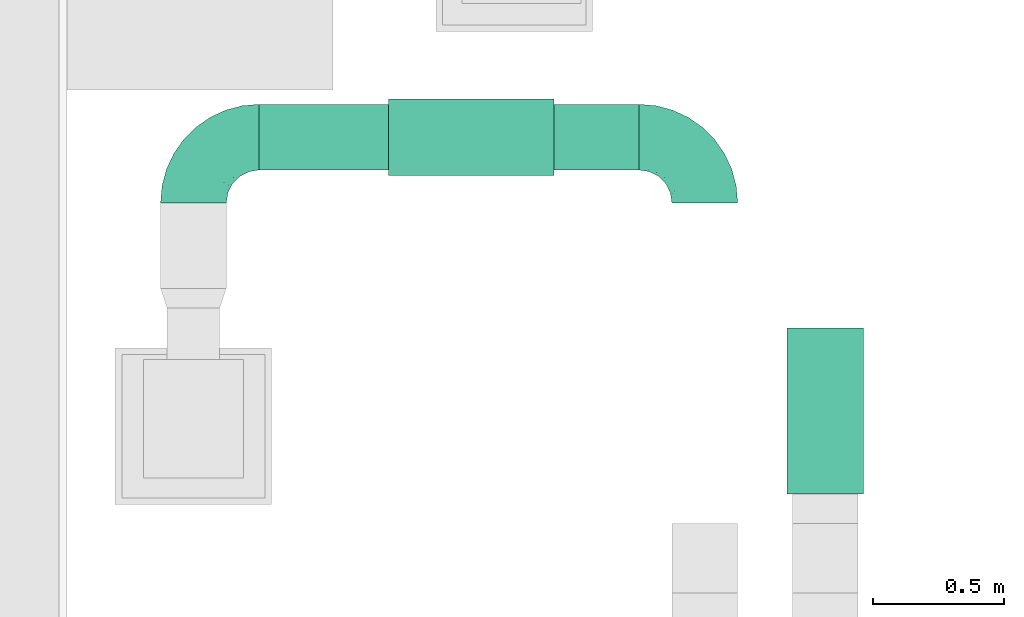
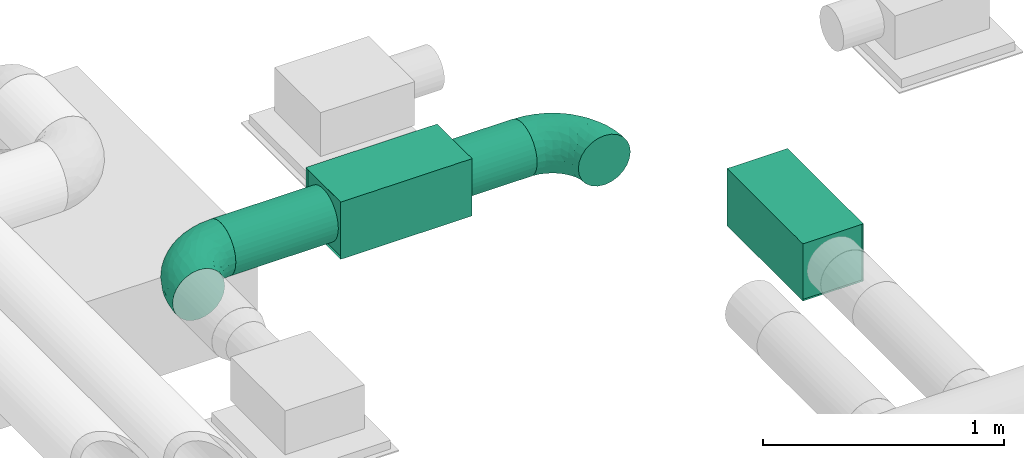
# One storey, part 20 of 36: 2 flow fittings, 2 flow segments, 2 flow treatment devices.
"""IFC2X3 building model written with IfcOpenShell, lengths in millimetres."""

from ifc_helpers import new_model, entity, si_unit, converted_unit, derived_unit, direction, frame, origin_with_axes, origin_2d_with_axis, place, context, subcontext, project, spatial, hollow_circle, extrude, open_shell, surface_model, source, transform, mapped, type_object, element, save


model = new_model("IFC2X3")

# Units and contexts
model_context = context("Model", 3, precision=0.01, world=frame((0.0, 4.29681676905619e-09, 0.0)), true_north=direction((4.01073788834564e-13, 1.0)))
plan_context = context("Plan", 3, precision=0.01, world=frame((0.0, 4.29681676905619e-09, 0.0)), true_north=direction((4.01073788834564e-13, 1.0)))
body_context = subcontext(model_context, "Body", "Model", "MODEL_VIEW")
ifc_project = project(units=[converted_unit("PLANEANGLEUNIT", "DEGREE", entity("IfcPositiveLengthMeasure", 0.0174532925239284), si_unit("PLANEANGLEUNIT", "RADIAN"), dimensions=[0, 0, 0, 0, 0, 0, 0]), si_unit("AREAUNIT", "SQUARE_METRE"), si_unit("LENGTHUNIT", "METRE", prefix="MILLI"), si_unit("MASSUNIT", "GRAM", prefix="KILO"), si_unit("POWERUNIT", "WATT"), si_unit("PRESSUREUNIT", "PASCAL"), si_unit("FORCEUNIT", "NEWTON", prefix="KILO"), si_unit("ELECTRICCURRENTUNIT", "AMPERE"), si_unit("THERMODYNAMICTEMPERATUREUNIT", "DEGREE_CELSIUS"), si_unit("TIMEUNIT", "SECOND"), si_unit("VOLUMEUNIT", "CUBIC_METRE"), derived_unit("LINEARVELOCITYUNIT", [(si_unit("LENGTHUNIT", "METRE"), 1), (si_unit("TIMEUNIT", "SECOND"), -1)]), derived_unit("VOLUMETRICFLOWRATEUNIT", [(si_unit("VOLUMEUNIT", "CUBIC_METRE"), 1), (si_unit("TIMEUNIT", "SECOND"), -1)]), derived_unit("THERMALTRANSMITTANCEUNIT", [(si_unit("POWERUNIT", "WATT"), 1), (si_unit("THERMODYNAMICTEMPERATUREUNIT", "KELVIN"), -1), (si_unit("AREAUNIT", "SQUARE_METRE"), -1)])], contexts=[model_context, plan_context])

# Site, building, storey
site_placement = place(None, frame((0.0, -4.29681676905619e-09, 0.0), z_axis=(0.0, 0.0, 1.0), x_axis=(1.0, 0.0, 0.0)))
site = spatial("IfcSite", under=ifc_project, at=site_placement, CompositionType="ELEMENT")
building_placement = place(site_placement, frame((0.0, 4.29681676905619e-09, 0.0), z_axis=(0.0, 0.0, 1.0), x_axis=(1.0, 0.0, 0.0)))
building = spatial("IfcBuilding", under=site, at=building_placement, Name="mc-building", CompositionType="ELEMENT")
storey_placement = place(building_placement, frame((0.0, 0.0, 204000.0), z_axis=(0.0, 0.0, 1.0), x_axis=(1.0, 0.0, 0.0)))
storey = spatial("IfcBuildingStorey", under=building, at=storey_placement, Name="Nivå D", CompositionType="ELEMENT", Elevation=204000.0)

# Flow fittings
duct_fitting_type = type_object("IfcDuctFittingType", Name="magicirc_elbow_full_radius_001", PredefinedType="BEND")
shared_shape_1 = source(origin_with_axes(), body_context, "Body", "SurfaceModel", [
    surface_model("IfcShellBasedSurfaceModel", [(-250.0, 0.0, -125.0), (-250.0, -88.38835, -88.38835), (-250.0, 32.35238, -120.74073), (-250.0, 62.5, -108.25318), (-250.0, 88.38835, -88.38835), (-250.0, 120.74073, -32.35238), (-250.0, 108.25318, -62.5), (-250.0, -62.5, -108.25318), (-250.0, -32.35238, -120.74073), (-250.0, -108.25318, -62.5), (-250.0, -120.74073, -32.35238), (-250.0, -125.0, 0.0), (-250.0, -88.38835, 88.38835), (-250.0, 120.74073, 32.35238), (-250.0, -62.5, 108.25318), (-250.0, 108.25318, 62.5), (-250.0, 62.5, 108.25318), (-250.0, 88.38835, 88.38835), (-250.0, 32.35238, 120.74073), (-250.0, -108.25318, 62.5), (-250.0, -120.74073, 32.35238), (-250.0, -32.35238, 120.74073), (-250.0, 0.0, 125.0), (-250.0, 125.0, 0.0), (-32.35238, 250.0, -120.74073), (88.38835, 250.0, -88.38835), (0.0, 250.0, -125.0), (-88.38835, 250.0, -88.38835), (-62.5, 250.0, -108.25318), (-108.25318, 250.0, -62.5), (-120.74073, 250.0, -32.35238), (32.35238, 250.0, -120.74073), (62.5, 250.0, -108.25318), (120.74073, 250.0, -32.35238), (108.25318, 250.0, -62.5), (125.0, 250.0, 0.0), (88.38835, 250.0, 88.38835), (62.5, 250.0, 108.25318), (-120.74073, 250.0, 32.35238), (-108.25318, 250.0, 62.5), (-62.5, 250.0, 108.25318), (-88.38835, 250.0, 88.38835), (-32.35238, 250.0, 120.74073), (120.74073, 250.0, 32.35238), (108.25318, 250.0, 62.5), (0.0, 250.0, 125.0), (32.35238, 250.0, 120.74073), (-125.0, 250.0, 0.0), (-210.86951, 73.07385, 104.36376), (-184.88194, -119.30291, 0.0), (-195.25827, -115.02308, 37.93413), (-218.90842, -122.27984, 0.0), (53.79635, 43.6295, 43.29829), (28.71982, 26.00799, 63.66662), (24.95926, 3.36677, 37.10772), (-143.32142, -83.48741, 74.82033), (-148.43956, -66.68827, 93.84246), (-193.81021, -79.4231, 92.40443), (-215.01547, -101.28826, 70.7859), (-170.24804, -98.61932, 63.57524), (15.48822, 139.1377, 119.17758), (51.95219, 181.65541, 109.88177), (21.43204, 199.18477, 122.23461), (-92.12122, -88.57213, 0.0), (-62.5, -74.75953, 0.0), (-102.19713, -88.25159, 37.84333), (114.99061, 194.89886, 37.86695), (105.10704, 146.7157, 35.60305), (110.84382, 153.31219, 0.0), (-35.72732, -56.0131, 0.0), (-19.33443, -42.66525, 24.1819), (-49.61048, -64.84865, 21.07887), (-134.49668, -18.50083, 117.62872), (-140.3114, 18.31287, 124.83908), (-163.87891, -5.14412, 123.50312), (-19.95522, 81.94859, 120.03225), (-25.80872, 122.13882, 124.73796), (-52.10962, 92.30678, 124.9631), (-31.05983, -5.99293, 89.90144), (-41.72797, 23.84412, 111.01725), (-81.01653, -19.40599, 104.87443), (-106.83954, -79.59981, 60.56422), (-146.98015, -105.1079, 35.84762), (-71.29451, -72.63164, 38.82328), (-73.06126, 220.06184, 103.19018), (-98.79093, 205.2116, 84.29848), (-75.91528, 182.06995, 107.88634), (-199.69686, 99.57099, 85.2884), (-203.49675, 11.2922, 124.81465), (-116.53306, 171.44239, 81.08815), (-111.87993, 90.36566, 118.79078), (-104.67411, 138.16705, 105.76412), (-145.96795, 109.49288, 99.87096), (-196.30432, -21.44057, 122.11502), (-215.51315, -51.86659, 112.81539), (-204.26429, 116.15735, 61.96761), (-171.07855, 119.2179, 78.533), (-181.86003, 134.49131, 46.84392), (-214.14919, 125.14691, 34.6495), (-134.49131, 181.86003, 46.84392), (-159.17408, 159.17408, 29.15352), (-152.46395, 152.46395, 55.37908), (-211.37287, 131.11793, 0.0), (-188.77781, 138.76885, 22.08599), (-176.52685, 148.87287, 0.0), (-90.84545, 14.70792, 120.26896), (-165.92299, 79.38605, 109.77065), (-194.42694, 43.85537, 119.55352), (38.35285, 111.1449, 103.53188), (67.56111, 151.47747, 93.91415), (101.2929, 214.32433, 70.67839), (-11.88244, 26.84905, 98.98258), (69.59743, 58.34132, 24.07272), (88.25159, 102.19715, 37.84335), (71.67798, 75.77581, 46.99643), (-84.05365, 84.19131, 124.04603), (-74.05474, 58.59216, 124.60033), (122.27984, 218.90842, 0.0), (-11.46722, -27.90939, 45.97099), (2.8419, -2.84189, 63.66452), (-36.75436, -35.39096, 65.83052), (79.49517, 196.80314, 92.78444), (59.14009, 215.57843, 109.07718), (-43.54002, 203.9777, 118.93211), (-3.74505, 217.94309, 124.98888), (47.42619, 250.0, 114.49695), (-11.6252, 186.58509, 124.95553), (-37.69004, 161.1507, 123.41409), (-148.87287, 176.52685, 0.0), (-138.76885, 188.77781, 22.08599), (-131.11793, 211.37287, 0.0), (-125.14691, 214.14919, 34.6495), (-84.38488, 127.39299, 117.02266), (-59.20815, 123.25028, 123.23304), (-63.59847, 155.77939, 118.03647), (56.0131, 35.72732, 0.0), (48.70082, 26.28379, 21.1922), (-116.19732, 204.24725, 61.91096), (9.4067, 98.99033, 114.49463), (79.67349, 106.95659, 60.52634), (-16.17619, 250.0, 122.87036), (82.93177, 142.04467, 75.00397), (-143.56269, 53.49001, 122.15523), (102.38473, 121.74244, 0.0), (88.57213, 92.12122, 0.0), (44.74763, 58.49273, 72.95926), (18.11496, 55.96411, 95.23773), (9.69309, 23.39724, 81.63831), (-67.51915, -39.60495, 84.29377), (98.46572, 169.05992, 63.37638), (-170.8102, -51.18183, 108.87038), (-153.31219, -110.84382, 0.0), (-123.62588, -42.04646, 104.74517), (-73.23164, -60.48705, 64.15546), (-139.54816, 139.54816, 82.62583), (-108.1391, 55.1991, 124.67421), (-60.03995, 38.39208, 120.18375), (65.18219, 107.64577, 80.24903), (43.4165, 83.93892, 89.61045), (-4.9115, 60.75686, 109.8509), (-110.21718, -65.96071, 80.65176), (-43.62951, -53.79636, 43.29829), (37.26667, 8.95465, 0.0), (14.15601, -14.15601, 0.0), (-8.95465, -37.26667, 0.0), (-121.74244, -102.38473, 0.0), (74.75953, 62.5, 0.0), (119.30291, 184.88194, 0.0), (-48.82206, -1.60827, -102.07682), (-81.15095, 5.22067, -115.678), (-46.7578, 29.40312, -114.58593), (-204.53459, 115.51747, -62.86787), (-214.14919, 125.14691, -34.6495), (-181.86003, 134.49131, -46.84392), (-14.61222, -31.35351, -44.43883), (11.84236, -11.84236, -33.95092), (-22.4719, -45.07054, -24.34392), (-223.1891, 97.50172, -81.04959), (-204.40195, 73.34241, -105.17442), (-205.98338, 43.52544, -118.79771), (-115.51747, 204.53457, -62.86787), (-123.49723, 170.45377, -74.23949), (-134.49131, 181.86003, -46.84392), (-183.06045, -52.02369, -110.01015), (-110.47452, -37.60202, -103.79083), (-151.64326, -67.35, -94.13381), (-188.77781, 138.76885, -22.08599), (-114.75143, 65.55471, -123.1751), (-107.82895, 32.74573, -124.62786), (-148.44163, 51.08373, -122.1244), (-159.17408, 159.17408, -29.15352), (-138.76885, 188.77781, -22.08599), (-119.19358, 124.76558, -104.29075), (-156.37688, 113.94777, -91.79313), (-139.54817, 139.54815, -82.62583), (-17.8555, 5.83155, -89.841), (-53.98544, -29.45541, -85.32833), (52.02369, 183.06045, -110.01015), (-194.89886, -114.99061, -37.86695), (68.13995, 56.13213, -24.5986), (53.12789, 44.54335, -46.08326), (71.63973, 76.43802, -47.84654), (-218.9084, -122.27984, 0.0), (-142.39083, -82.85696, -75.24042), (-197.12937, -79.50134, -92.82571), (-214.32433, -101.2929, -70.67839), (-187.89553, 11.55914, -124.94803), (-76.28398, -71.66476, -47.61611), (-102.35833, -88.16959, -38.28022), (-107.64683, -79.80589, -60.8013), (-55.74247, -67.93132, -24.47435), (-73.34242, 204.40195, -105.17441), (-199.49861, -21.42932, -122.24748), (-107.64576, -65.1822, -80.24902), (-0.34225, 0.34224, -70.72271), (29.30666, 54.05255, -85.49962), (16.15015, 142.42885, -119.37772), (43.11376, 128.52401, -105.34342), (14.39958, 85.87454, -108.99442), (-152.46395, 152.46393, -55.37908), (-125.14691, 214.14919, -34.6495), (-83.7122, 64.8786, -124.99462), (-54.88917, 96.03345, -124.99152), (-55.00537, 55.00536, -122.31604), (114.99061, 194.89886, -37.86695), (-97.50172, 223.1891, -81.04959), (-101.67989, 188.66846, -87.26306), (21.42932, 199.49861, -122.24748), (-11.55914, 187.89551, -124.94803), (-17.77846, 99.36444, -122.09337), (-43.52544, 205.98336, -118.79771), (-142.42885, -16.15015, -119.37772), (79.50134, 197.12936, -92.82571), (-188.66846, 101.67988, -87.26306), (-170.17192, 125.74792, -71.81093), (45.368, 22.81369, -24.20694), (101.2929, 214.32433, -70.67839), (105.10171, 146.67975, -35.58648), (88.16959, 102.35833, -38.28022), (79.96492, 108.09127, -60.85482), (-146.67975, -105.10171, -35.58648), (122.27984, 218.9084, 0.0), (98.46572, 169.0599, -63.37638), (-144.66282, 11.20212, -124.51517), (-87.43442, 152.97293, -109.2834), (67.3894, 152.70136, -94.37252), (-152.97295, 87.4344, -109.2834), (-102.45394, 113.88071, -114.88639), (-64.92037, 173.4251, -114.6928), (-51.08373, 148.44162, -122.1244), (-30.24824, 128.8738, -124.99659), (30.47164, 29.3995, -64.89969), (53.45139, 66.81998, -68.66115), (65.18219, 107.64576, -80.24903), (82.78793, 142.70732, -75.45609), (-67.10765, -53.67876, -68.59085), (-44.54336, -53.12789, -46.08326), (-169.05992, -98.46572, -63.37638), (-77.48047, 126.65809, -119.10822), (-111.62197, 155.40485, -94.01416), (-173.42512, 64.92037, -114.69279), (-93.45156, 93.45155, -121.68252), (31.52201, 14.63788, -44.14115), (-75.97227, -25.0209, -99.65574), (-18.30454, 63.16594, -115.56557), (-16.44961, 32.13712, -103.97124), (-29.64558, -30.50919, -65.101)], [open_shell([[[0, 1, 2]], [[3, 2, 4]], [[5, 6, 4]], [[1, 4, 2]], [[4, 1, 5]], [[7, 1, 8]], [[1, 0, 8]], [[9, 10, 1]], [[11, 1, 10]], [[11, 12, 1]], [[13, 5, 1]], [[1, 14, 13]], [[13, 14, 15]], [[16, 15, 14]], [[17, 15, 16]], [[16, 14, 18]], [[19, 12, 20]], [[20, 12, 11]], [[21, 22, 14]], [[12, 14, 1]], [[14, 22, 18]], [[23, 5, 13]], [[24, 25, 26]], [[27, 24, 28]], [[27, 29, 30]], [[24, 27, 25]], [[30, 25, 27]], [[31, 25, 32]], [[31, 26, 25]], [[25, 33, 34]], [[33, 25, 35]], [[25, 36, 35]], [[25, 30, 37]], [[30, 38, 37]], [[39, 37, 38]], [[37, 39, 40]], [[40, 39, 41]], [[42, 37, 40]], [[43, 36, 44]], [[35, 36, 43]], [[37, 45, 46]], [[25, 37, 36]], [[42, 45, 37]], [[30, 47, 38]], [[17, 16, 48]], [[49, 50, 51]], [[52, 53, 54]], [[55, 56, 57]], [[58, 50, 59]], [[60, 61, 62]], [[63, 64, 65]], [[66, 67, 68]], [[69, 70, 71]], [[72, 73, 74]], [[75, 76, 77]], [[12, 57, 14]], [[78, 79, 80]], [[81, 82, 65]], [[64, 83, 65]], [[84, 85, 86]], [[12, 19, 58]], [[12, 58, 57]], [[17, 48, 87]], [[22, 88, 18]], [[86, 85, 89]], [[90, 91, 92]], [[93, 21, 94]], [[95, 96, 97]], [[85, 41, 39]], [[15, 17, 87]], [[21, 93, 22]], [[23, 13, 98]], [[99, 100, 101]], [[91, 86, 89]], [[102, 103, 104]], [[80, 79, 105]], [[106, 48, 107]], [[107, 16, 18]], [[14, 94, 21]], [[61, 108, 109]], [[36, 110, 44]], [[79, 78, 111]], [[112, 113, 114]], [[84, 40, 41]], [[44, 66, 43]], [[115, 116, 77]], [[45, 62, 46]], [[66, 117, 43]], [[118, 119, 120]], [[37, 121, 36]], [[121, 37, 122]], [[123, 124, 42]], [[98, 97, 103]], [[66, 44, 110]], [[15, 87, 95]], [[122, 37, 125]], [[126, 127, 76]], [[128, 129, 130]], [[129, 131, 130]], [[128, 104, 100]], [[130, 131, 47]], [[132, 133, 134]], [[42, 40, 123]], [[99, 129, 100]], [[135, 112, 136]], [[126, 123, 127]], [[137, 38, 131]], [[138, 60, 76]], [[19, 20, 50]], [[101, 100, 97]], [[114, 113, 139]], [[124, 45, 140]], [[46, 62, 122]], [[103, 100, 104]], [[92, 96, 87]], [[119, 118, 54]], [[98, 95, 97]], [[141, 121, 109]], [[88, 22, 93]], [[142, 107, 73]], [[143, 113, 144]], [[145, 146, 147]], [[78, 148, 120]], [[81, 65, 83]], [[39, 38, 137]], [[85, 137, 89]], [[139, 67, 149]], [[121, 110, 36]], [[72, 93, 150]], [[88, 73, 107]], [[55, 59, 81]], [[94, 57, 150]], [[50, 20, 51]], [[50, 151, 82]], [[62, 45, 124]], [[60, 62, 126]], [[109, 121, 61]], [[110, 121, 149]], [[84, 123, 40]], [[127, 134, 133]], [[152, 72, 150]], [[105, 73, 72]], [[149, 67, 66]], [[149, 141, 139]], [[153, 81, 83]], [[82, 59, 50]], [[88, 93, 74]], [[107, 18, 88]], [[100, 129, 128]], [[131, 129, 99]], [[131, 99, 137]], [[131, 38, 47]], [[99, 101, 89]], [[39, 137, 85]], [[99, 89, 137]], [[89, 154, 91]], [[92, 154, 96]], [[91, 132, 134]], [[102, 23, 98]], [[100, 103, 97]], [[102, 98, 103]], [[95, 13, 15]], [[95, 98, 13]], [[96, 95, 87]], [[92, 87, 106]], [[96, 154, 101]], [[90, 92, 106]], [[91, 154, 92]], [[107, 142, 106]], [[105, 116, 155]], [[115, 155, 116]], [[116, 156, 75]], [[107, 48, 16]], [[87, 48, 106]], [[80, 105, 72]], [[156, 105, 79]], [[152, 150, 56]], [[148, 78, 80]], [[152, 148, 80]], [[145, 157, 158]], [[146, 111, 147]], [[108, 157, 109]], [[79, 111, 159]], [[76, 127, 133]], [[96, 101, 97]], [[89, 101, 154]], [[73, 105, 155]], [[90, 106, 142]], [[160, 153, 148]], [[148, 153, 120]], [[153, 160, 81]], [[120, 153, 161]], [[118, 120, 161]], [[78, 120, 119]], [[161, 70, 118]], [[162, 136, 54]], [[163, 70, 164]], [[70, 163, 54]], [[71, 70, 161]], [[151, 50, 49]], [[83, 71, 161]], [[69, 164, 70]], [[153, 83, 161]], [[65, 165, 63]], [[55, 81, 160]], [[82, 81, 59]], [[56, 55, 160]], [[57, 59, 55]], [[160, 148, 152]], [[57, 56, 150]], [[160, 152, 56]], [[80, 72, 152]], [[71, 64, 69]], [[134, 123, 86]], [[77, 76, 133]], [[138, 76, 75]], [[126, 76, 60]], [[123, 134, 127]], [[91, 134, 86]], [[91, 90, 132]], [[115, 132, 90]], [[133, 132, 115]], [[75, 77, 116]], [[133, 115, 77]], [[155, 90, 142]], [[90, 155, 115]], [[73, 155, 142]], [[108, 61, 60]], [[141, 109, 157]], [[138, 75, 159]], [[158, 146, 145]], [[139, 141, 157]], [[121, 141, 149]], [[145, 114, 139]], [[139, 113, 67]], [[145, 139, 157]], [[112, 114, 52]], [[136, 112, 52]], [[166, 144, 112]], [[54, 136, 52]], [[135, 166, 112]], [[136, 162, 135]], [[67, 143, 68]], [[65, 82, 165]], [[112, 144, 113]], [[68, 167, 66]], [[85, 84, 41]], [[123, 84, 86]], [[20, 11, 51]], [[117, 66, 167]], [[117, 35, 43]], [[66, 110, 149]], [[57, 94, 14]], [[93, 94, 150]], [[50, 58, 19]], [[57, 58, 59]], [[122, 62, 61]], [[46, 122, 125]], [[121, 122, 61]], [[124, 123, 126]], [[42, 124, 140]], [[62, 124, 126]], [[88, 74, 73]], [[93, 72, 74]], [[113, 143, 67]], [[64, 71, 83]], [[75, 156, 79]], [[116, 105, 156]], [[147, 78, 119]], [[159, 111, 146]], [[138, 146, 108]], [[79, 159, 75]], [[78, 147, 111]], [[147, 53, 145]], [[53, 147, 119]], [[114, 145, 52]], [[146, 138, 159]], [[108, 60, 138]], [[54, 53, 119]], [[52, 145, 53]], [[54, 118, 70]], [[163, 162, 54]], [[151, 165, 82]], [[157, 108, 158]], [[146, 158, 108]], [[168, 169, 170]], [[171, 172, 173]], [[174, 175, 176]], [[4, 177, 178]], [[179, 2, 3]], [[180, 181, 182]], [[102, 172, 23]], [[183, 184, 185]], [[104, 186, 102]], [[187, 188, 189]], [[190, 128, 191]], [[171, 5, 172]], [[192, 193, 194]], [[168, 195, 196]], [[197, 31, 32]], [[4, 6, 177]], [[198, 10, 9]], [[199, 200, 201]], [[198, 202, 10]], [[203, 204, 185]], [[205, 198, 9]], [[179, 3, 178]], [[7, 183, 204]], [[4, 178, 3]], [[206, 0, 2]], [[186, 172, 102]], [[207, 208, 209]], [[205, 9, 1]], [[210, 208, 207]], [[211, 27, 28]], [[212, 0, 206]], [[1, 7, 204]], [[213, 185, 184]], [[214, 195, 215]], [[128, 190, 104]], [[216, 217, 218]], [[173, 190, 219]], [[176, 69, 210]], [[30, 220, 47]], [[221, 222, 223]], [[34, 33, 224]], [[220, 180, 182]], [[29, 27, 225]], [[226, 225, 211]], [[26, 227, 228]], [[228, 24, 26]], [[0, 212, 8]], [[31, 227, 26]], [[216, 218, 229]], [[211, 28, 230]], [[8, 183, 7]], [[212, 231, 183]], [[232, 197, 32]], [[233, 171, 234]], [[235, 200, 199]], [[175, 164, 176]], [[199, 144, 166]], [[169, 188, 223]], [[236, 25, 34]], [[228, 227, 216]], [[237, 238, 239]], [[198, 240, 151]], [[241, 167, 224]], [[236, 224, 242]], [[243, 189, 188]], [[220, 182, 191]], [[244, 226, 211]], [[197, 245, 217]], [[226, 181, 180]], [[246, 192, 247]], [[248, 230, 249]], [[130, 191, 128]], [[32, 25, 232]], [[250, 216, 229]], [[219, 190, 182]], [[186, 190, 173]], [[251, 215, 252]], [[253, 254, 239]], [[165, 208, 63]], [[207, 255, 256]], [[209, 240, 257]], [[33, 35, 241]], [[224, 33, 241]], [[224, 68, 237]], [[28, 24, 230]], [[244, 211, 248]], [[246, 178, 233]], [[179, 189, 206]], [[244, 248, 258]], [[244, 192, 259]], [[222, 229, 223]], [[189, 260, 246]], [[193, 233, 234]], [[187, 246, 261]], [[231, 212, 206]], [[183, 8, 212]], [[185, 204, 183]], [[205, 204, 257]], [[31, 197, 227]], [[216, 227, 197]], [[236, 232, 25]], [[245, 254, 253]], [[252, 239, 201]], [[237, 242, 224]], [[257, 240, 198]], [[257, 203, 209]], [[24, 228, 230]], [[249, 230, 228]], [[179, 178, 260]], [[206, 2, 179]], [[190, 186, 104]], [[172, 186, 173]], [[234, 171, 173]], [[172, 5, 23]], [[177, 171, 233]], [[5, 171, 6]], [[130, 47, 220]], [[190, 191, 182]], [[130, 220, 191]], [[180, 30, 29]], [[30, 180, 220]], [[225, 180, 29]], [[210, 69, 64]], [[214, 251, 262]], [[219, 234, 173]], [[234, 194, 193]], [[259, 194, 181]], [[246, 233, 193]], [[244, 258, 247]], [[246, 193, 192]], [[259, 181, 226]], [[181, 194, 219]], [[244, 259, 226]], [[194, 259, 192]], [[181, 219, 182]], [[234, 219, 194]], [[184, 183, 231]], [[203, 185, 213]], [[169, 184, 231]], [[213, 184, 263]], [[231, 206, 243]], [[169, 223, 170]], [[264, 218, 265]], [[217, 215, 218]], [[169, 168, 263]], [[196, 266, 255]], [[243, 169, 231]], [[221, 187, 261]], [[209, 203, 213]], [[204, 203, 257]], [[196, 195, 266]], [[209, 208, 240]], [[255, 209, 213]], [[210, 207, 256]], [[209, 255, 207]], [[213, 196, 255]], [[210, 256, 176]], [[64, 63, 210]], [[174, 214, 175]], [[256, 255, 266]], [[174, 176, 256]], [[175, 162, 163]], [[256, 266, 174]], [[214, 174, 266]], [[176, 164, 69]], [[218, 215, 265]], [[252, 201, 200]], [[265, 170, 264]], [[216, 197, 217]], [[188, 221, 223]], [[229, 222, 250]], [[258, 222, 261]], [[250, 222, 249]], [[245, 197, 232]], [[215, 217, 253]], [[254, 232, 242]], [[253, 217, 245]], [[232, 254, 245]], [[242, 237, 239]], [[242, 239, 254]], [[201, 239, 238]], [[238, 143, 144]], [[251, 252, 200]], [[215, 253, 252]], [[239, 252, 253]], [[238, 199, 201]], [[199, 135, 235]], [[262, 200, 235]], [[215, 251, 214]], [[264, 223, 229]], [[262, 235, 175]], [[214, 262, 175]], [[251, 200, 262]], [[135, 199, 166]], [[135, 162, 235]], [[261, 222, 221]], [[188, 187, 221]], [[246, 187, 189]], [[249, 228, 250]], [[216, 250, 228]], [[240, 165, 151]], [[238, 237, 143]], [[210, 63, 208]], [[151, 49, 198]], [[202, 198, 49]], [[202, 11, 10]], [[204, 205, 1]], [[198, 205, 257]], [[224, 236, 34]], [[232, 236, 242]], [[211, 225, 27]], [[180, 225, 226]], [[171, 177, 6]], [[178, 177, 233]], [[230, 248, 211]], [[258, 248, 249]], [[222, 258, 249]], [[247, 258, 261]], [[246, 247, 261]], [[244, 247, 192]], [[179, 260, 189]], [[178, 246, 260]], [[144, 199, 238]], [[208, 165, 240]], [[162, 175, 235]], [[163, 164, 175]], [[168, 170, 265]], [[195, 168, 265]], [[168, 196, 263]], [[223, 264, 170]], [[218, 264, 229]], [[215, 195, 265]], [[195, 214, 266]], [[189, 243, 206]], [[169, 243, 188]], [[68, 224, 167]], [[68, 143, 237]], [[213, 263, 196]], [[169, 263, 184]]])]),
])
for number, where, z_axis, x_axis, name in (
    (1, (515547.5, 419036.05196, 2596.62929000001), (0.0, 0.0, 1.0), (-1.0, 0.0, 0.0), "magicirc_elbow_full_radius_001"),
    (2, (517491.89341, 419036.05196, 2596.62929000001), (0.0, 0.0, 1.0), (0.0, 1.0, 0.0), "magicirc_elbow_full_radius_001"),
):
    element("IfcFlowFitting", number, at=place(storey_placement, frame(where, z_axis=z_axis, x_axis=x_axis)), inside=storey, type_object=duct_fitting_type, Name=name, context=body_context, shape_type="MappedRepresentation", body=[
        mapped(shared_shape_1, transform((0.0, 0.0, 0.0), scale=1.0)),
    ])

# Flow segments
duct_segment_type = type_object("IfcDuctSegmentType", Name="KK001T - Spiro kanaler, Forsinket stål", PredefinedType="RIGIDSEGMENT")
shared_shape_2 = source(origin_with_axes(), body_context, "Body", "SweptSolid", [
    extrude(hollow_circle(Radius=125.0, WallThickness=2.0, at=origin_2d_with_axis()), frame((0.0, 0.0, 0.0), z_axis=(1.0, 0.0, 0.0), x_axis=(0.0, 1.0, 0.0)), (0.0, 0.0, 1.0), 323.1),
])
flow_segment_1_placement = place(storey_placement, frame((516918.78778, 419036.05196, 2596.62929000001), z_axis=(0.0, 0.0, 1.0), x_axis=(1.0, 0.0, 0.0)))
element("IfcFlowSegment", 3, at=flow_segment_1_placement, inside=storey, type_object=duct_segment_type, Name="KK001T - Spiro kanaler, Forsinket stål", context=body_context, shape_type="MappedRepresentation", body=[
    mapped(shared_shape_2, transform((0.0, 0.0, 0.0), scale=1.0)),
])
shared_shape_3 = source(origin_with_axes(), body_context, "Body", "SweptSolid", [
    extrude(hollow_circle(Radius=125.0, WallThickness=2.0, at=origin_2d_with_axis()), frame((0.0, 0.0, 0.0), z_axis=(1.0, 0.0, 0.0), x_axis=(0.0, 1.0, 0.0)), (0.0, 0.0, 1.0), 491.3),
])
flow_segment_2_placement = place(storey_placement, frame((516288.78778, 419036.05196, 2596.62929000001), z_axis=(0.0, 0.0, 1.0), x_axis=(-1.0, 0.0, 0.0)))
element("IfcFlowSegment", 4, at=flow_segment_2_placement, inside=storey, type_object=duct_segment_type, Name="KK001T - Spiro kanaler, Forsinket stål", context=body_context, shape_type="MappedRepresentation", body=[
    mapped(shared_shape_3, transform((0.0, 0.0, 0.0), scale=1.0)),
])

# Flow treatment devices
duct_silencer_type = type_object("IfcDuctSilencerType", Name="LKR-250-600", PredefinedType="ROUND")
shared_shape_4 = source(origin_with_axes(), body_context, "Body", "SurfaceModel", [
    surface_model("IfcShellBasedSurfaceModel", [(304.89999, 144.89999, 144.9), (304.89999, 144.89999, -144.89999), (304.89999, -144.9, -144.89999), (304.89999, -144.9, 144.9), (305.10002, -144.9, 144.9), (305.10002, -144.9, -144.89999), (305.10002, 144.89999, 144.9), (305.10002, 144.89999, -144.89999), (-305.10002, 144.89999, 144.9), (-305.10002, 144.89999, -144.89999), (-305.10002, -144.9, -144.89999), (-305.10002, -144.9, 144.9), (-304.89999, -144.9, 144.9), (-304.89999, -144.9, -144.89999), (-304.89999, 144.89999, 144.9), (-304.89999, 144.89999, -144.89999), (-315.0, 144.9, -145.0), (315.0, 144.9, -145.0), (-315.0, 144.9, 145.0), (315.0, 144.9, 145.0), (-315.0, 145.1, 145.0), (315.0, 145.1, 145.0), (315.0, 145.1, -145.0), (-315.0, 145.1, -145.0), (-315.0, -145.1, -145.0), (315.0, -145.1, -145.0), (-315.0, -145.1, 145.0), (315.0, -145.1, 145.0), (-315.0, -144.9, 145.0), (315.0, -144.9, 145.0), (315.0, -144.9, -145.0), (-315.0, -144.9, -145.0), (-315.0, -145.0, -145.1), (-315.0, 145.0, -145.1), (315.0, -145.0, -145.1), (315.0, 145.0, -145.1), (315.0, -145.0, -144.9), (315.0, 145.0, -144.9), (-315.0, 145.0, -144.9), (-315.0, -145.0, -144.9), (-315.0, -145.0, 144.9), (-315.0, 145.0, 144.9), (315.0, -145.0, 144.9), (315.0, 145.0, 144.9), (315.0, -145.0, 145.1), (315.0, 145.0, 145.1), (-315.0, 145.0, 145.1), (-315.0, -145.0, 145.1)], [open_shell([[[0, 1, 2]], [[2, 3, 0]], [[4, 5, 6]], [[7, 6, 5]], [[2, 1, 5]], [[7, 5, 1]], [[3, 2, 5]], [[5, 4, 3]], [[0, 3, 4]], [[4, 6, 0]], [[1, 0, 7]], [[6, 7, 0]], [[8, 9, 10]], [[10, 11, 8]], [[12, 13, 14]], [[15, 14, 13]], [[10, 9, 13]], [[15, 13, 9]], [[11, 10, 13]], [[13, 12, 11]], [[8, 11, 12]], [[12, 14, 8]], [[9, 8, 15]], [[14, 15, 8]], [[16, 17, 18]], [[19, 18, 17]], [[20, 21, 22]], [[22, 23, 20]], [[19, 17, 21]], [[22, 21, 17]], [[18, 19, 21]], [[21, 20, 18]], [[16, 18, 20]], [[20, 23, 16]], [[17, 16, 23]], [[23, 22, 17]], [[24, 25, 26]], [[27, 26, 25]], [[28, 29, 30]], [[30, 31, 28]], [[27, 25, 29]], [[30, 29, 25]], [[26, 27, 29]], [[29, 28, 26]], [[24, 26, 28]], [[28, 31, 24]], [[25, 24, 31]], [[31, 30, 25]], [[32, 33, 34]], [[35, 34, 33]], [[36, 37, 38]], [[38, 39, 36]], [[35, 33, 37]], [[38, 37, 33]], [[34, 35, 36]], [[37, 36, 35]], [[32, 34, 39]], [[36, 39, 34]], [[33, 32, 38]], [[39, 38, 32]], [[40, 41, 42]], [[43, 42, 41]], [[44, 45, 46]], [[46, 47, 44]], [[43, 41, 45]], [[46, 45, 41]], [[42, 43, 44]], [[45, 44, 43]], [[40, 42, 47]], [[44, 47, 42]], [[41, 40, 46]], [[47, 46, 40]]])]),
])
for number, where, z_axis, x_axis in (
    (5, (516603.78778, 419036.05196, 2596.62929000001), (0.0, 0.0, 1.0), (1.0, 0.0, 0.0)),
    (6, (517950.0, 417994.68824, 2589.0), (0.0, 0.0, 1.0), (0.0, 1.0, 0.0)),
):
    element("IfcFlowTreatmentDevice", number, at=place(storey_placement, frame(where, z_axis=z_axis, x_axis=x_axis)), inside=storey, type_object=duct_silencer_type, Name="LKR-250-600", context=body_context, shape_type="MappedRepresentation", body=[
        mapped(shared_shape_4, transform((0.0, 0.0, 0.0), scale=1.0)),
    ])

save(model, "model.ifc")
